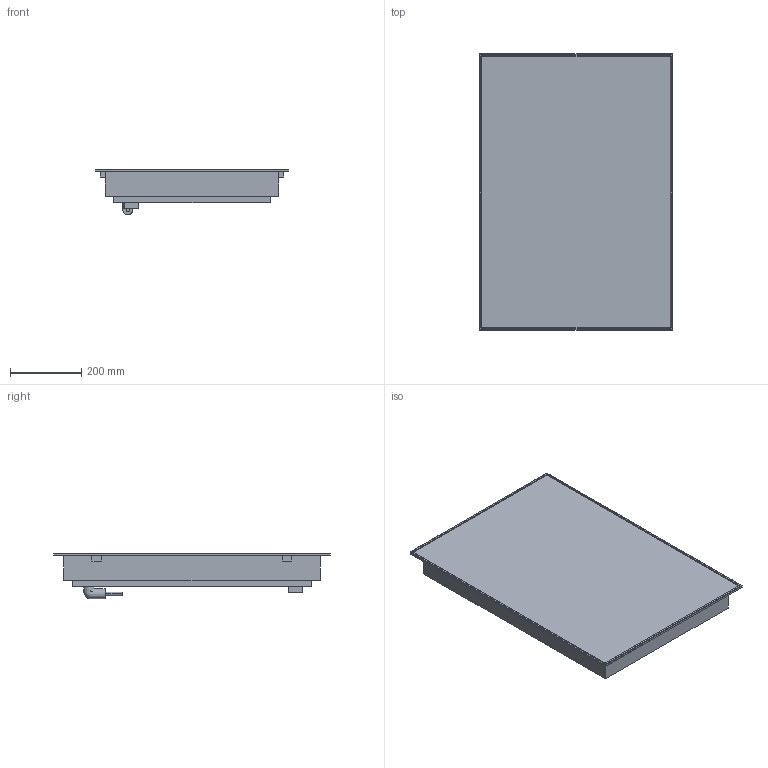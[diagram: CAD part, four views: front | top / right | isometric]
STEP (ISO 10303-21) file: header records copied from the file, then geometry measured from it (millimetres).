
FILE_DESCRIPTION(/* description */ (''),/* implementation_level */ '2;1');
FILE_NAME(/* name */ '26636052USA_KM6360_CLST',/* time_stamp */ '2015-02-12T16:20:43+01:00',/* author */ (''),/* organization */ (''),/* preprocessor_version */ 'ST-DEVELOPER v10',/* originating_system */ '',/* authorisation */ '');
FILE_SCHEMA (('AUTOMOTIVE_DESIGN_CC2'));
Length unit declared in the file: millimetre
Products named in the file (1): 1
Bounding box: 543.99 x 775 x 127.97 mm (x, y, z)
Volume: 34336361.9 mm3; surface area: 2449398.7 mm2
Topology: 11 solids, 11 shells, 90 faces, 188 edges, 116 vertices
Faces by surface type: bspline 90
Entity records: 6357 total; most frequent: CARTESIAN_POINT 5081, ORIENTED_EDGE 368, EDGE_CURVE 184, B_SPLINE_CURVE_WITH_KNOTS 150, VERTEX_POINT 116, EDGE_LOOP 92, ADVANCED_FACE 90, FACE_OUTER_BOUND 90
